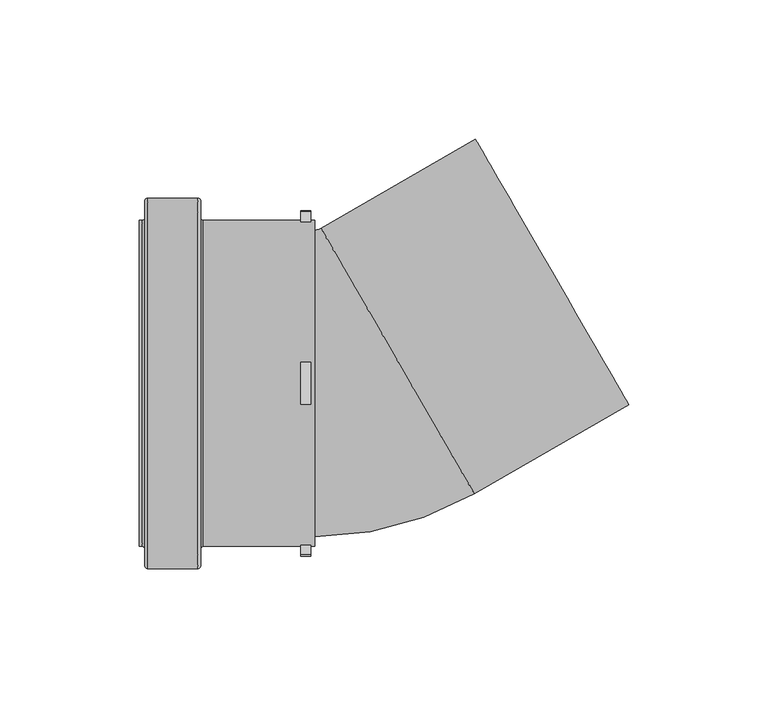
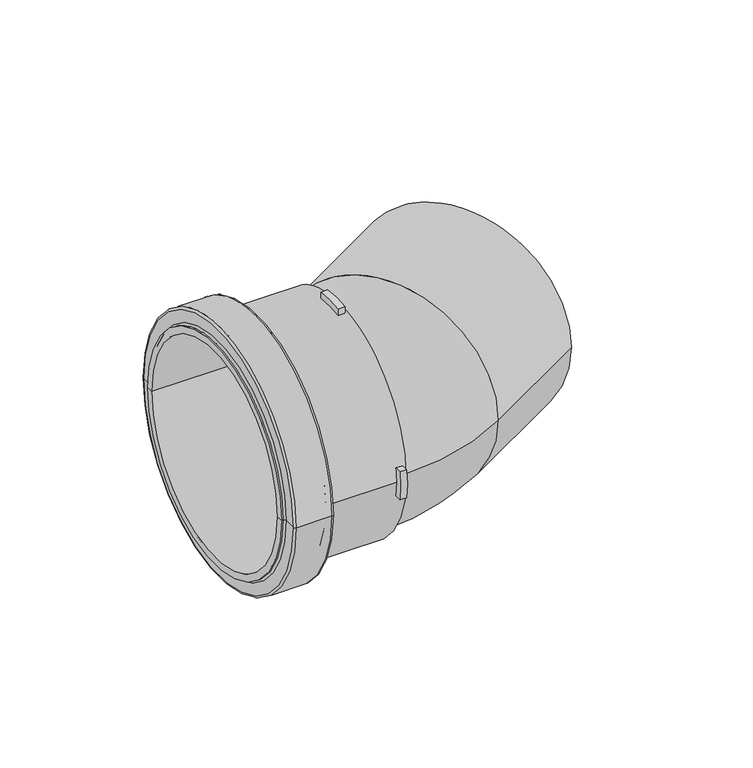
"""IFC4 building model written with IfcOpenShell, lengths in millimetres: pipe fitting geometry, MarleyPlumbingAndDrainage_PipeFitting_dBlue30DegreeBend_VKL : VKL-110-000-30D - 110mm - Blue."""

from ifc_helpers import new_model, si_unit, point, frame, origin, place, context, project, spatial, polyline, circle_curve, ellipse_curve, trimmed, source, transform, mapped, element, save
from ifc_brep_helpers import plane_surface, cylinder_surface, revolved_surface, advanced_brep


def pipe_fitting_e7de12d3(model_context):
    return source(origin(), model_context, "Body", "AdvancedBrep", [
        advanced_brep(
        [(-72.709765, 66.5, 0.0), (-72.709765, -66.5, 0.0), (-71.709765, -65.5, 0.0), (-71.709765, 65.5, 0.0), (-90.709765, 66.5, 0.0), (-90.709765, -66.5, 0.0), (-91.709765, 65.5, 0.0), (-91.709765, -65.5, 0.0), (-91.709765, 59.5, 0.0), (-91.709765, -59.5, 0.0), (-92.709765, 58.5, 0.0), (-92.709765, -58.5, 0.0), (-93.709765, 55.0, 0.0), (-93.709765, -55.0, 0.0), (-93.709765, -58.5, 0.0), (-93.709765, 58.5, 0.0), (-30.709765, 55.0, 0.0), (-30.709765, -55.0, 0.0), (-30.709765, 58.5, 0.0), (-30.709765, -58.5, 0.0), (-32.209765, 58.5, 0.0), (-32.209765, 58.0172388, 7.5), (-35.709765, 58.0172388, 7.5), (-35.709765, 58.5, 0.0), (-70.709765, 58.5, 0.0), (-70.709765, -58.5, 0.0), (-35.709765, -58.5, 0.0), (-35.709765, -58.0172388, 7.5), (-32.209765, -58.0172388, 7.5), (-32.209765, -58.5, 0.0), (-35.709765, -7.5, 58.0172388), (-35.709765, 7.5, 58.0172388), (-32.209765, 7.5, 58.0172388), (-32.209765, -7.5, 58.0172388), (-32.209765, -58.0172388, -7.5), (-35.709765, -58.0172388, -7.5), (-35.709765, 58.0172388, -7.5), (-32.209765, 58.0172388, -7.5), (-35.709765, 7.5, -58.0172388), (-35.709765, -7.5, -58.0172388), (-32.209765, -7.5, -58.0172388), (-32.209765, 7.5, -58.0172388), (-71.709765, 59.5, 0.0), (-71.709765, -59.5, 0.0), (-35.709765, 61.5446992, 7.5), (-35.709765, 61.5446992, -7.5), (-35.709765, -7.5, 61.5446992), (-35.709765, 7.5, 61.5446992), (-35.709765, -61.5446992, -7.5), (-35.709765, -61.5446992, 7.5), (-35.709765, 7.5, -61.5446992), (-35.709765, -7.5, -61.5446992), (-32.209765, 61.5446992, -7.5), (-32.209765, 61.5446992, 7.5), (-32.209765, 7.5, 61.5446992), (-32.209765, -7.5, 61.5446992), (-32.209765, -61.5446992, 7.5), (-32.209765, -61.5446992, -7.5), (-32.209765, -7.5, -61.5446992), (-32.209765, 7.5, -61.5446992)],
        [
            (0, 1, circle_curve(frame((-72.709765, 0.0, 0.0), z_axis=(1.0, 0.0, 0.0), x_axis=(0.0, -1.0, 0.0)), 66.5)),
            (1, 2, circle_curve(frame((-72.709765, -65.5, 0.0), z_axis=(0.0, 0.0, 1.0), x_axis=(0.0, -1.0, 0.0)), 1.0)),
            (2, 3, circle_curve(frame((-71.709765, 0.0, 0.0), z_axis=(-1.0, 0.0, 0.0), x_axis=(0.0, -1.0, 0.0)), 65.5)),
            (3, 0, circle_curve(frame((-72.709765, 65.5, 0.0), z_axis=(0.0, 0.0, 1.0), x_axis=(0.0, 1.0, 0.0)), 1.0)),
            (1, 0, circle_curve(frame((-72.709765, 0.0, 0.0), z_axis=(1.0, 0.0, 0.0), x_axis=(0.0, -1.0, 0.0)), 66.5)),
            (3, 2, circle_curve(frame((-71.709765, 0.0, 0.0), z_axis=(-1.0, 0.0, 0.0), x_axis=(0.0, -1.0, 0.0)), 65.5)),
            (0, 4),
            (4, 5, circle_curve(frame((-90.709765, 0.0, 0.0), z_axis=(1.0, 0.0, 0.0), x_axis=(0.0, -1.0, 0.0)), 66.5)),
            (5, 1),
            (5, 4, circle_curve(frame((-90.709765, 0.0, 0.0), z_axis=(1.0, 0.0, 0.0), x_axis=(0.0, -1.0, 0.0)), 66.5)),
            (4, 6, circle_curve(frame((-90.709765, 65.5, 0.0), z_axis=(0.0, 0.0, 1.0), x_axis=(0.0, 1.0, 0.0)), 1.0)),
            (6, 7, circle_curve(frame((-91.709765, 0.0, 0.0), z_axis=(1.0, 0.0, 0.0), x_axis=(0.0, -1.0, 0.0)), 65.5)),
            (7, 5, circle_curve(frame((-90.709765, -65.5, 0.0), z_axis=(0.0, 0.0, 1.0), x_axis=(0.0, -1.0, 0.0)), 1.0)),
            (7, 6, circle_curve(frame((-91.709765, 0.0, 0.0), z_axis=(1.0, 0.0, 0.0), x_axis=(0.0, -1.0, 0.0)), 65.5)),
            (6, 8),
            (8, 9, circle_curve(frame((-91.709765, 0.0, 0.0), z_axis=(1.0, 0.0, 0.0), x_axis=(0.0, -1.0, 0.0)), 59.5)),
            (9, 7),
            (9, 8, circle_curve(frame((-91.709765, 0.0, 0.0), z_axis=(1.0, 0.0, 0.0), x_axis=(0.0, -1.0, 0.0)), 59.5)),
            (8, 10, circle_curve(frame((-92.709765, 59.5, 0.0), z_axis=(0.0, 0.0, -1.0), x_axis=(0.0, 1.0, 0.0)), 1.0)),
            (10, 11, circle_curve(frame((-92.709765, 0.0, 0.0), z_axis=(1.0, 0.0, 0.0), x_axis=(0.0, -1.0, 0.0)), 58.5)),
            (11, 9, circle_curve(frame((-92.709765, -59.5, 0.0), z_axis=(0.0, 0.0, -1.0), x_axis=(0.0, -1.0, 0.0)), 1.0)),
            (11, 10, circle_curve(frame((-92.709765, 0.0, 0.0), z_axis=(1.0, 0.0, 0.0), x_axis=(0.0, -1.0, 0.0)), 58.5)),
            (12, 13, circle_curve(frame((-93.709765, 0.0, 0.0), z_axis=(1.0, 0.0, 0.0), x_axis=(0.0, -1.0, 0.0)), 55.0)),
            (13, 14),
            (14, 15, circle_curve(frame((-93.709765, 0.0, 0.0), z_axis=(-1.0, 0.0, 0.0), x_axis=(0.0, -1.0, 0.0)), 58.5)),
            (15, 12),
            (13, 12, circle_curve(frame((-93.709765, 0.0, 0.0), z_axis=(1.0, 0.0, 0.0), x_axis=(0.0, -1.0, 0.0)), 55.0)),
            (15, 14, circle_curve(frame((-93.709765, 0.0, 0.0), z_axis=(-1.0, 0.0, 0.0), x_axis=(0.0, -1.0, 0.0)), 58.5)),
            (12, 16),
            (16, 17, circle_curve(frame((-30.709765, 0.0, 0.0), z_axis=(1.0, 0.0, 0.0), x_axis=(0.0, -1.0, 0.0)), 55.0)),
            (17, 13),
            (17, 16, circle_curve(frame((-30.709765, 0.0, 0.0), z_axis=(1.0, 0.0, 0.0), x_axis=(0.0, -1.0, 0.0)), 55.0)),
            (16, 18),
            (18, 19, circle_curve(frame((-30.709765, 0.0, 0.0), z_axis=(1.0, 0.0, 0.0), x_axis=(0.0, -1.0, 0.0)), 58.5)),
            (19, 17),
            (19, 18, circle_curve(frame((-30.709765, 0.0, 0.0), z_axis=(1.0, 0.0, 0.0), x_axis=(0.0, -1.0, 0.0)), 58.5)),
            (18, 20),
            (20, 21, circle_curve(frame((-32.209765, 0.0, 0.0), z_axis=(1.0, 0.0, 0.0), x_axis=(0.0, -1.0, 0.0)), 58.5)),
            (21, 22),
            (22, 23, circle_curve(frame((-35.709765, 0.0, 0.0), z_axis=(-1.0, 0.0, 0.0), x_axis=(0.0, -1.0, 0.0)), 58.5)),
            (23, 24),
            (24, 25, circle_curve(frame((-70.709765, 0.0, 0.0), z_axis=(1.0, 0.0, 0.0), x_axis=(0.0, -1.0, 0.0)), 58.5)),
            (25, 26),
            (26, 27, circle_curve(frame((-35.709765, 0.0, 0.0), z_axis=(-1.0, 0.0, 0.0), x_axis=(0.0, -1.0, 0.0)), 58.5)),
            (27, 28),
            (28, 29, circle_curve(frame((-32.209765, 0.0, 0.0), z_axis=(1.0, 0.0, 0.0), x_axis=(0.0, -1.0, 0.0)), 58.5)),
            (29, 19),
            (30, 31, circle_curve(frame((-35.709765, 0.0, 0.0), z_axis=(-1.0, 0.0, 0.0), x_axis=(0.0, -1.0, 0.0)), 58.5)),
            (31, 32),
            (32, 33, circle_curve(frame((-32.209765, 0.0, 0.0), z_axis=(1.0, 0.0, 0.0), x_axis=(0.0, -1.0, 0.0)), 58.5)),
            (33, 30),
            (29, 34, circle_curve(frame((-32.209765, 0.0, 0.0), z_axis=(1.0, 0.0, 0.0), x_axis=(0.0, -1.0, 0.0)), 58.5)),
            (34, 35),
            (35, 26, circle_curve(frame((-35.709765, 0.0, 0.0), z_axis=(-1.0, 0.0, 0.0), x_axis=(0.0, -1.0, 0.0)), 58.5)),
            (25, 24, circle_curve(frame((-70.709765, 0.0, 0.0), z_axis=(1.0, 0.0, 0.0), x_axis=(0.0, -1.0, 0.0)), 58.5)),
            (23, 36, circle_curve(frame((-35.709765, 0.0, 0.0), z_axis=(-1.0, 0.0, 0.0), x_axis=(0.0, -1.0, 0.0)), 58.5)),
            (36, 37),
            (37, 20, circle_curve(frame((-32.209765, 0.0, 0.0), z_axis=(1.0, 0.0, 0.0), x_axis=(0.0, -1.0, 0.0)), 58.5)),
            (38, 39, circle_curve(frame((-35.709765, 0.0, 0.0), z_axis=(-1.0, 0.0, 0.0), x_axis=(0.0, -1.0, 0.0)), 58.5)),
            (39, 40),
            (40, 41, circle_curve(frame((-32.209765, 0.0, 0.0), z_axis=(1.0, 0.0, 0.0), x_axis=(0.0, -1.0, 0.0)), 58.5)),
            (41, 38),
            (24, 42, circle_curve(frame((-70.709765, 59.5, 0.0), z_axis=(0.0, 0.0, -1.0), x_axis=(0.0, 1.0, 0.0)), 1.0)),
            (42, 43, circle_curve(frame((-71.709765, 0.0, 0.0), z_axis=(1.0, 0.0, 0.0), x_axis=(0.0, -1.0, 0.0)), 59.5)),
            (43, 25, circle_curve(frame((-70.709765, -59.5, 0.0), z_axis=(0.0, 0.0, -1.0), x_axis=(0.0, -1.0, 0.0)), 1.0)),
            (43, 42, circle_curve(frame((-71.709765, 0.0, 0.0), z_axis=(1.0, 0.0, 0.0), x_axis=(0.0, -1.0, 0.0)), 59.5)),
            (2, 43),
            (42, 3),
            (10, 15),
            (14, 11),
            (22, 44),
            (44, 45, circle_curve(frame((-35.709765, 0.0, 0.0), z_axis=(-1.0, 0.0, 0.0), x_axis=(0.0, -1.0, 0.0)), 62.0)),
            (45, 36),
            (30, 46),
            (46, 47, circle_curve(frame((-35.709765, 0.0, 0.0), z_axis=(-1.0, 0.0, 0.0), x_axis=(0.0, -1.0, 0.0)), 62.0)),
            (47, 31),
            (35, 48),
            (48, 49, circle_curve(frame((-35.709765, 0.0, 0.0), z_axis=(-1.0, 0.0, 0.0), x_axis=(0.0, -1.0, 0.0)), 62.0)),
            (49, 27),
            (38, 50),
            (50, 51, circle_curve(frame((-35.709765, 0.0, 0.0), z_axis=(-1.0, 0.0, 0.0), x_axis=(0.0, -1.0, 0.0)), 62.0)),
            (51, 39),
            (37, 52),
            (52, 53, circle_curve(frame((-32.209765, 0.0, 0.0), z_axis=(1.0, 0.0, 0.0), x_axis=(0.0, -1.0, 0.0)), 62.0)),
            (53, 21),
            (32, 54),
            (54, 55, circle_curve(frame((-32.209765, 0.0, 0.0), z_axis=(1.0, 0.0, 0.0), x_axis=(0.0, -1.0, 0.0)), 62.0)),
            (55, 33),
            (28, 56),
            (56, 57, circle_curve(frame((-32.209765, 0.0, 0.0), z_axis=(1.0, 0.0, 0.0), x_axis=(0.0, -1.0, 0.0)), 62.0)),
            (57, 34),
            (40, 58),
            (58, 59, circle_curve(frame((-32.209765, 0.0, 0.0), z_axis=(1.0, 0.0, 0.0), x_axis=(0.0, -1.0, 0.0)), 62.0)),
            (59, 41),
            (53, 44),
            (52, 45),
            (55, 46),
            (54, 47),
            (57, 48),
            (56, 49),
            (59, 50),
            (58, 51),
        ],
        [
            revolved_surface(trimmed(ellipse_curve(frame((-72.709765, -65.5, 0.0), z_axis=(0.0, 0.0, -1.0), x_axis=(0.0, -1.0, 0.0)), 1.0, 1.0), [point((-71.709765, -65.5, 0.0))], [point((-72.709765, -66.5, 0.0))], True, "CARTESIAN"), (-148.709765, 0.0, 0.0), (-1.0, 0.0, 0.0)),
            cylinder_surface(frame((-148.709765, 0.0, 0.0), z_axis=(-1.0, 0.0, 0.0), x_axis=(0.0, -1.0, 0.0)), 66.5),
            revolved_surface(trimmed(ellipse_curve(frame((-90.709765, -65.5, 0.0), z_axis=(0.0, 0.0, -1.0), x_axis=(0.0, -1.0, 0.0)), 1.0, 1.0), [point((-90.709765, -66.5, 0.0))], [point((-91.709765, -65.5, 0.0))], True, "CARTESIAN"), (-148.709765, 0.0, 0.0), (-1.0, 0.0, 0.0)),
            plane_surface(frame((-91.709765, 0.0, 0.0), z_axis=(-1.0, 0.0, 0.0), x_axis=(0.0, -1.0, 0.0))),
            revolved_surface(trimmed(ellipse_curve(frame((-92.709765, -59.5, 0.0), z_axis=(0.0, 0.0, 1.0), x_axis=(0.0, -1.0, 0.0)), 1.0, 1.0), [point((-91.709765, -59.5, 0.0))], [point((-92.709765, -58.5, 0.0))], True, "CARTESIAN"), (-148.709765, 0.0, 0.0), (-1.0, 0.0, 0.0)),
            plane_surface(frame((-93.709765, 0.0, 0.0), z_axis=(-1.0, 0.0, 0.0), x_axis=(0.0, -1.0, 0.0))),
            revolved_surface(polyline([(-93.709765, -55.0, 0.0), (-30.709765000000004, -55.0, 0.0)]), (-148.709765, 0.0, 0.0), (-1.0, 0.0, 0.0)),
            plane_surface(frame((-30.709765, 0.0, 0.0), z_axis=(1.0, 0.0, 0.0), x_axis=(0.0, -1.0, 0.0))),
            cylinder_surface(frame((-148.709765, 0.0, 0.0), z_axis=(-1.0, 0.0, 0.0), x_axis=(0.0, -1.0, 0.0)), 58.5),
            revolved_surface(trimmed(ellipse_curve(frame((-70.709765, -59.5, 0.0), z_axis=(0.0, 0.0, 1.0), x_axis=(0.0, -1.0, 0.0)), 1.0, 1.0), [point((-70.709765, -58.5, 0.0))], [point((-71.709765, -59.5, 0.0))], True, "CARTESIAN"), (-148.709765, 0.0, 0.0), (-1.0, 0.0, 0.0)),
            plane_surface(frame((-71.709765, 0.0, 0.0), z_axis=(1.0, 0.0, 0.0), x_axis=(0.0, -1.0, 0.0))),
            plane_surface(frame((-35.709765, -58.5, 0.0), z_axis=(-1.0, 0.0, 0.0), x_axis=(0.0, 0.0, -1.0))),
            plane_surface(frame((-32.209765, -58.5, 0.0), z_axis=(1.0, 0.0, 0.0), x_axis=(0.0, 0.0, 1.0))),
            plane_surface(frame((-35.709765, 58.0172388, 7.5), z_axis=(0.0, 0.0, 1.0), x_axis=(1.0, 0.0, 0.0))),
            cylinder_surface(frame((-32.209765, 0.0, 0.0), z_axis=(-1.0, 0.0, 0.0), x_axis=(0.0, -1.0, 0.0)), 62.0),
            plane_surface(frame((-35.709765, 61.5446992, -7.5), z_axis=(0.0, 0.0, -1.0), x_axis=(1.0, 0.0, 0.0))),
            plane_surface(frame((-35.709765, -7.5, 58.0172388), z_axis=(0.0, -1.0, 0.0), x_axis=(1.0, 0.0, 0.0))),
            cylinder_surface(frame((-30.709765, 0.0, 0.0), z_axis=(-1.0, 0.0, 0.0), x_axis=(0.0, -1.0, 0.0)), 62.0),
            plane_surface(frame((-35.709765, 7.5, 61.5446992), z_axis=(0.0, 1.0, 0.0), x_axis=(1.0, 0.0, 0.0))),
            plane_surface(frame((-35.709765, -58.0172388, -7.5), z_axis=(0.0, 0.0, -1.0), x_axis=(1.0, 0.0, 0.0))),
            plane_surface(frame((-35.709765, -61.5446992, 7.5), z_axis=(0.0, 0.0, 1.0), x_axis=(1.0, 0.0, 0.0))),
            plane_surface(frame((-35.709765, 7.5, -58.0172388), z_axis=(0.0, 1.0, 0.0), x_axis=(1.0, 0.0, 0.0))),
            plane_surface(frame((-35.709765, -7.5, -61.5446992), z_axis=(0.0, -1.0, 0.0), x_axis=(1.0, 0.0, 0.0))),
        ],
        [
            (0, [[1, 2, 3, 4]]),
            (0, [[-2, 5, -4, 6]]),
            (1, [[-1, 7, 8, 9]]),
            (1, [[-5, -9, 10, -7]]),
            (2, [[-8, 11, 12, 13]]),
            (2, [[-10, -13, 14, -11]]),
            (3, [[-12, 15, 16, 17]]),
            (3, [[-14, -17, 18, -15]]),
            (4, [[-16, 19, 20, 21]]),
            (4, [[-18, -21, 22, -19]]),
            (5, [[23, 24, 25, 26]]),
            (5, [[-24, 27, -26, 28]]),
            (6, [[-23, 29, 30, 31]]),
            (6, [[-27, -31, 32, -29]]),
            (7, [[-30, 33, 34, 35]]),
            (7, [[-32, -35, 36, -33]]),
            (8, [[-34, 37, 38, 39, 40, 41, 42, 43, 44, 45, 46, 47], [48, 49, 50, 51]]),
            (8, [[-36, -47, 52, 53, 54, -43, 55, -41, 56, 57, 58, -37], [59, 60, 61, 62]]),
            (9, [[-42, 63, 64, 65]]),
            (9, [[-55, -65, 66, -63]]),
            (10, [[-3, 67, -64, 68]]),
            (10, [[-6, -68, -66, -67]]),
            (8, [[-20, 69, -25, 70]]),
            (8, [[-22, -70, -28, -69]]),
            (11, [[71, 72, 73, -56, -40]]),
            (11, [[74, 75, 76, -48]]),
            (11, [[77, 78, 79, -44, -54]]),
            (11, [[80, 81, 82, -59]]),
            (12, [[83, 84, 85, -38, -58]]),
            (12, [[86, 87, 88, -50]]),
            (12, [[89, 90, 91, -52, -46]]),
            (12, [[92, 93, 94, -61]]),
            (13, [[-71, -39, -85, 95]]),
            (14, [[-72, -95, -84, 96]]),
            (15, [[-73, -96, -83, -57]]),
            (16, [[-74, -51, -88, 97]]),
            (17, [[-75, -97, -87, 98]]),
            (18, [[-76, -98, -86, -49]]),
            (19, [[-77, -53, -91, 99]]),
            (17, [[-78, -99, -90, 100]]),
            (20, [[-79, -100, -89, -45]]),
            (21, [[-80, -62, -94, 101]]),
            (17, [[-81, -101, -93, 102]]),
            (22, [[-82, -102, -92, -60]]),
        ],
    ),
        advanced_brep(
        [(-30.709765, -55.0, 0.0), (-30.709765, 55.0, 0.0), (-28.459765, 55.6028857, 0.0), (26.540235, -39.6599087, 0.0), (81.9658608, -7.6599087, 0.0), (26.9658608, 87.6028857, 0.0)],
        [
            (0, 1, circle_curve(frame((-30.709765, 0.0, 0.0), z_axis=(-1.0, 0.0, 0.0), x_axis=(0.0, 1.0, 0.0)), 55.0)),
            (1, 0, circle_curve(frame((-30.709765, 0.0, 0.0), z_axis=(-1.0, 0.0, 0.0), x_axis=(0.0, 1.0, 0.0)), 55.0)),
            (2, 1, circle_curve(frame((-30.709765, 59.5, 0.0), z_axis=(0.0, 0.0, -1.0), x_axis=(0.0, -1.0, 0.0)), 4.5)),
            (0, 3, circle_curve(frame((-30.709765, 59.5, 0.0), z_axis=(0.0, 0.0, 1.0), x_axis=(0.0, -1.0, 0.0)), 114.5)),
            (3, 2, circle_curve(frame((-0.959765, 7.9714885, 0.0), z_axis=(-0.8660254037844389, -0.4999999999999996, 0.0), x_axis=(-0.4999999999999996, 0.8660254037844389, 0.0)), 55.0)),
            (2, 3, circle_curve(frame((-0.959765, 7.9714885, 0.0), z_axis=(-0.8660254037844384, -0.5000000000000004, 0.0), x_axis=(-0.5000000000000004, 0.8660254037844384, 0.0)), 55.0)),
            (4, 5, circle_curve(frame((54.4658608, 39.9714885, 0.0), z_axis=(0.8660254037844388, 0.4999999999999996, 0.0), x_axis=(-0.4999999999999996, 0.8660254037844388, 0.0)), 55.0)),
            (5, 4, circle_curve(frame((54.4658608, 39.9714885, 0.0), z_axis=(0.8660254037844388, 0.4999999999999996, 0.0), x_axis=(-0.4999999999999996, 0.8660254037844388, 0.0)), 55.0)),
            (3, 4),
            (5, 2),
        ],
        [
            plane_surface(frame((-30.709765, 0.0, 0.0), z_axis=(-1.0, 0.0, 0.0), x_axis=(0.0, 0.0, 1.0))),
            revolved_surface(trimmed(ellipse_curve(frame((-30.709765, 0.0, 0.0), z_axis=(-1.0, 0.0, 0.0), x_axis=(0.0, 1.0, 0.0)), 55.0, 55.0), [point((-30.709765, -55.0, 0.0))], [point((-30.709765, 55.0, 0.0))], True, "CARTESIAN"), (-30.709765, 59.5, 0.0), (0.0, 0.0, 1.0)),
            revolved_surface(trimmed(ellipse_curve(frame((-30.709765, 0.0, 0.0), z_axis=(-1.0, 0.0, 0.0), x_axis=(0.0, 1.0, 0.0)), 55.0, 55.0), [point((-30.709765, 55.0, 0.0))], [point((-30.709765, -55.0, 0.0))], True, "CARTESIAN"), (-30.709765, 59.5, 0.0), (0.0, 0.0, 1.0)),
            plane_surface(frame((54.4658608, 39.9714885, 0.0), z_axis=(0.8660254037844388, 0.4999999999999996, 0.0), x_axis=(0.0, 0.0, 1.0))),
            cylinder_surface(frame((-0.959765, 7.9714885, 0.0), z_axis=(-0.8660254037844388, -0.4999999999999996, 0.0), x_axis=(-0.4999999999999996, 0.8660254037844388, 0.0)), 55.0),
        ],
        [
            (0, [[1, 2]]),
            (1, [[3, -1, 4, 5]]),
            (2, [[-4, -2, -3, 6]]),
            (3, [[7, 8]]),
            (4, [[-5, 9, -8, 10]]),
            (4, [[-6, -10, -7, -9]]),
        ],
    ),
    ])


if __name__ == "__main__":
    model = new_model("IFC4")
    model_context = context("Model", 3, world=origin())
    ifc_project = project(units=[si_unit("LENGTHUNIT", "METRE", prefix="MILLI")], contexts=[model_context])
    site = spatial("IfcSite", under=ifc_project)
    building = spatial("IfcBuilding", under=site)
    placement = place(None, origin())
    pipe_fitting_shape = pipe_fitting_e7de12d3(model_context)
    element("IfcPipeFitting", 1, ObjectType="MarleyPlumbingAndDrainage_PipeFitting_dBlue30DegreeBend_VKL : VKL-110-000-30D - 110mm - Blue", at=placement, inside=building, context=model_context, shape_type="MappedRepresentation", body=[
        mapped(pipe_fitting_shape, transform((0.0, 0.0, 0.0), x_axis=(1.0, 0.0, 0.0), y_axis=(0.0, 1.0, 0.0), z_axis=(0.0, 0.0, 1.0))),
    ])
    save(model, "model.ifc")
